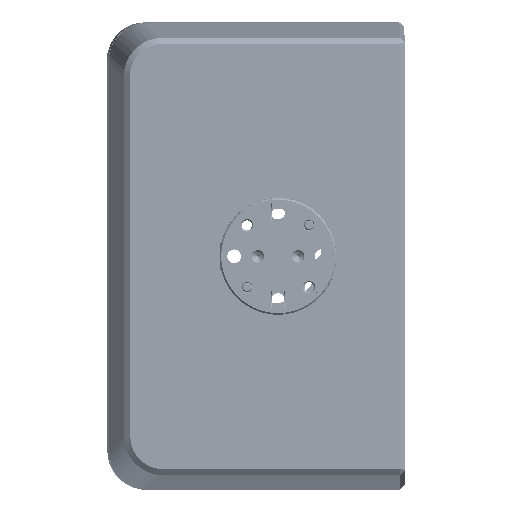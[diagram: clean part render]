
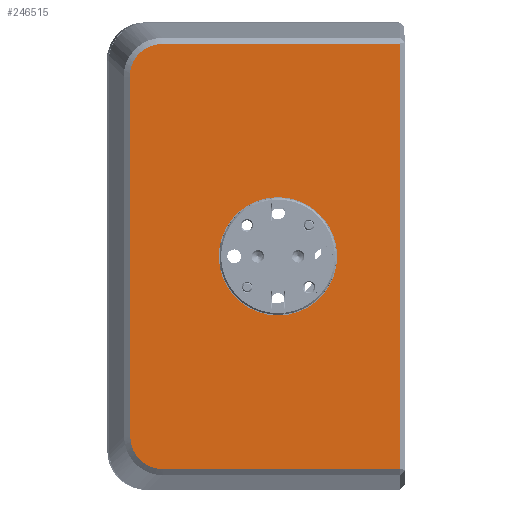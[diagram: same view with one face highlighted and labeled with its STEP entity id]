
A CAD part, left-side view. The second image highlights one B-rep face of the part: STEP entity #246515.
In plain terms, the highlighted planar face has unit normal (-1, -0.002, -0.001).
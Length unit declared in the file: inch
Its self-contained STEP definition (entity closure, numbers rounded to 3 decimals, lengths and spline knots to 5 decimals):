
#1148 = DIRECTION ( 'NONE',  ( -0.002, 1., -0.001 ) ) ;
#12720 = ORIENTED_EDGE ( 'NONE', *, *, #275039, .T. ) ;
#19064 = CARTESIAN_POINT ( 'NONE',  ( -1.59347, -6.87485, -2.68332 ) ) ;
#20352 = EDGE_LOOP ( 'NONE', ( #268294, #61477, #12720, #124950, #89838, #185185 ) ) ;
#24527 = DIRECTION ( 'NONE',  ( 0.001, -0.001, -1. ) ) ;
#27211 = LINE ( 'NONE', #30849, #65587 ) ;
#30144 = CARTESIAN_POINT ( 'NONE',  ( -1.59391, -6.66566, -2.47467 ) ) ;
#30849 = CARTESIAN_POINT ( 'NONE',  ( -1.59395, -7.47747, 0.04762 ) ) ;
#31133 = VECTOR ( 'NONE', #337472, 39.37008 ) ;
#51493 = DIRECTION ( 'NONE',  ( -1., -0.002, -0.001 ) ) ;
#61477 = ORIENTED_EDGE ( 'NONE', *, *, #148787, .T. ) ;
#65587 = VECTOR ( 'NONE', #1148, 39.37008 ) ;
#70407 = AXIS2_PLACEMENT_3D ( 'NONE', #81295, #51493, #163472 ) ;
#70433 = DIRECTION ( 'NONE',  ( 0.002, -1., 0.001 ) ) ;
#71266 = CARTESIAN_POINT ( 'NONE',  ( -1.59303, -7.61424, -1.31728 ) ) ;
#75693 = EDGE_CURVE ( 'NONE', #239824, #347306, #288182, .T. ) ;
#81295 = CARTESIAN_POINT ( 'NONE',  ( -1.59303, -7.61424, -1.31728 ) ) ;
#88973 = CARTESIAN_POINT ( 'NONE',  ( -1.59511, -6.70421, -0.03361 ) ) ;
#89838 = ORIENTED_EDGE ( 'NONE', *, *, #75693, .T. ) ;
#89997 = VECTOR ( 'NONE', #24527, 39.37008 ) ;
#95557 = DIRECTION ( 'NONE',  ( -0.001, 0.001, 1. ) ) ;
#96339 = VERTEX_POINT ( 'NONE', #30144 ) ;
#108424 = CARTESIAN_POINT ( 'NONE',  ( -1.59352, -6.84731, -2.68336 ) ) ;
#110245 = CARTESIAN_POINT ( 'NONE',  ( -1.5937, -6.7461, -2.64177 ) ) ;
#117031 = CARTESIAN_POINT ( 'NONE',  ( -1.59505, -6.76588, 0.02046 ) ) ;
#122776 = CARTESIAN_POINT ( 'NONE',  ( -1.59109, -8.401, -2.68134 ) ) ;
#124950 = ORIENTED_EDGE ( 'NONE', *, *, #311517, .T. ) ;
#125012 = EDGE_CURVE ( 'NONE', #243250, #291029, #212975, .T. ) ;
#134668 = CARTESIAN_POINT ( 'NONE',  ( -1.59391, -6.66566, -2.47467 ) ) ;
#136407 = CARTESIAN_POINT ( 'NONE',  ( -1.59451, -6.66416, -1.31852 ) ) ;
#138283 = CARTESIAN_POINT ( 'NONE',  ( -1.59378, -6.70755, -2.60331 ) ) ;
#148787 = EDGE_CURVE ( 'NONE', #303846, #365533, #150779, .T. ) ;
#149832 = AXIS2_PLACEMENT_3D ( 'NONE', #260423, #320116, #340833 ) ;
#150779 = LINE ( 'NONE', #242001, #326124 ) ;
#160363 = EDGE_CURVE ( 'NONE', #96339, #303846, #193877, .T. ) ;
#163472 = DIRECTION ( 'NONE',  ( -0.001, 0.001, 1. ) ) ;
#168077 = CARTESIAN_POINT ( 'NONE',  ( -1.59381, -6.69203, -2.5801 ) ) ;
#185185 = ORIENTED_EDGE ( 'NONE', *, *, #234836, .T. ) ;
#187053 = DIRECTION ( 'NONE',  ( -1., -0.002, -0.001 ) ) ;
#188588 = EDGE_CURVE ( 'NONE', #291029, #243250, #266802, .T. ) ;
#189711 = CARTESIAN_POINT ( 'NONE',  ( -1.59322, -7.61374, -0.93729 ) ) ;
#190672 = CARTESIAN_POINT ( 'NONE',  ( -1.59365, -6.76936, -2.65723 ) ) ;
#193877 = B_SPLINE_CURVE_WITH_KNOTS ( 'NONE', 3,
 ( #134668, #365828, #194348, #168077, #138283, #110245, #190672, #281748, #108424, #19064 ),
 .UNSPECIFIED., .F., .F.,
 ( 4, 2, 2, 2, 4 ),
 ( 0., 0.25, 0.5, 0.75, 1. ),
 .UNSPECIFIED. ) ;
#194091 = CARTESIAN_POINT ( 'NONE',  ( -1.59251, -8.39746, 0.04881 ) ) ;
#194348 = CARTESIAN_POINT ( 'NONE',  ( -1.59387, -6.67116, -2.52965 ) ) ;
#197431 = CARTESIAN_POINT ( 'NONE',  ( -1.59498, -6.81633, 0.04132 ) ) ;
#208213 = CARTESIAN_POINT ( 'NONE',  ( -1.59511, -6.66266, -0.16236 ) ) ;
#212975 = CIRCLE ( 'NONE', #344046, 0.38 ) ;
#221566 = PLANE ( 'NONE',  #149832 ) ;
#223821 = LINE ( 'NONE', #309492, #31133 ) ;
#225325 = CARTESIAN_POINT ( 'NONE',  ( -1.59513, -6.66802, -0.10736 ) ) ;
#227180 = CARTESIAN_POINT ( 'NONE',  ( -1.59494, -6.84382, 0.0468 ) ) ;
#228647 = EDGE_LOOP ( 'NONE', ( #305362, #236212 ) ) ;
#234836 = EDGE_CURVE ( 'NONE', #347306, #96339, #279838, .T. ) ;
#236212 = ORIENTED_EDGE ( 'NONE', *, *, #188588, .F. ) ;
#239824 = VERTEX_POINT ( 'NONE', #294922 ) ;
#242001 = CARTESIAN_POINT ( 'NONE',  ( -1.59253, -7.48101, -2.68254 ) ) ;
#243250 = VERTEX_POINT ( 'NONE', #189711 ) ;
#246515 = ADVANCED_FACE ( 'NONE', ( #363346, #309132 ), #221566, .F. ) ;
#256791 = CARTESIAN_POINT ( 'NONE',  ( -1.59507, -6.74267, 0.00494 ) ) ;
#260423 = CARTESIAN_POINT ( 'NONE',  ( -1.59324, -7.47924, -1.31746 ) ) ;
#266802 = CIRCLE ( 'NONE', #70407, 0.38 ) ;
#268294 = ORIENTED_EDGE ( 'NONE', *, *, #160363, .T. ) ;
#275039 = EDGE_CURVE ( 'NONE', #365533, #322400, #223821, .T. ) ;
#279278 = CARTESIAN_POINT ( 'NONE',  ( -1.59513, -6.68876, -0.05687 ) ) ;
#279838 = LINE ( 'NONE', #136407, #89997 ) ;
#281748 = CARTESIAN_POINT ( 'NONE',  ( -1.59356, -6.81985, -2.67797 ) ) ;
#288182 = B_SPLINE_CURVE_WITH_KNOTS ( 'NONE', 3,
 ( #342742, #227180, #197431, #117031, #256791, #88973, #279278, #225325, #337150, #367065 ),
 .UNSPECIFIED., .F., .F.,
 ( 4, 2, 2, 2, 4 ),
 ( 0., 0.25, 0.5, 0.75, 1. ),
 .UNSPECIFIED. ) ;
#291029 = VERTEX_POINT ( 'NONE', #322095 ) ;
#294922 = CARTESIAN_POINT ( 'NONE',  ( -1.59489, -6.87131, 0.04683 ) ) ;
#303846 = VERTEX_POINT ( 'NONE', #344505 ) ;
#305362 = ORIENTED_EDGE ( 'NONE', *, *, #125012, .F. ) ;
#309132 = FACE_OUTER_BOUND ( 'NONE', #20352, .T. ) ;
#309492 = CARTESIAN_POINT ( 'NONE',  ( -1.5918, -8.39923, -1.31627 ) ) ;
#311517 = EDGE_CURVE ( 'NONE', #322400, #239824, #27211, .T. ) ;
#320116 = DIRECTION ( 'NONE',  ( 1., 0.002, 0.001 ) ) ;
#322095 = CARTESIAN_POINT ( 'NONE',  ( -1.59283, -7.61473, -1.69728 ) ) ;
#322400 = VERTEX_POINT ( 'NONE', #194091 ) ;
#326124 = VECTOR ( 'NONE', #70433, 39.37008 ) ;
#337150 = CARTESIAN_POINT ( 'NONE',  ( -1.59513, -6.66262, -0.13482 ) ) ;
#337472 = DIRECTION ( 'NONE',  ( -0.001, 0.001, 1. ) ) ;
#340833 = DIRECTION ( 'NONE',  ( 0.001, -0.001, -1. ) ) ;
#342742 = CARTESIAN_POINT ( 'NONE',  ( -1.59489, -6.87131, 0.04683 ) ) ;
#344046 = AXIS2_PLACEMENT_3D ( 'NONE', #71266, #187053, #95557 ) ;
#344505 = CARTESIAN_POINT ( 'NONE',  ( -1.59347, -6.87485, -2.68332 ) ) ;
#347306 = VERTEX_POINT ( 'NONE', #208213 ) ;
#363346 = FACE_BOUND ( 'NONE', #228647, .T. ) ;
#365533 = VERTEX_POINT ( 'NONE', #122776 ) ;
#365828 = CARTESIAN_POINT ( 'NONE',  ( -1.59389, -6.66569, -2.50216 ) ) ;
#367065 = CARTESIAN_POINT ( 'NONE',  ( -1.59511, -6.66266, -0.16236 ) ) ;
